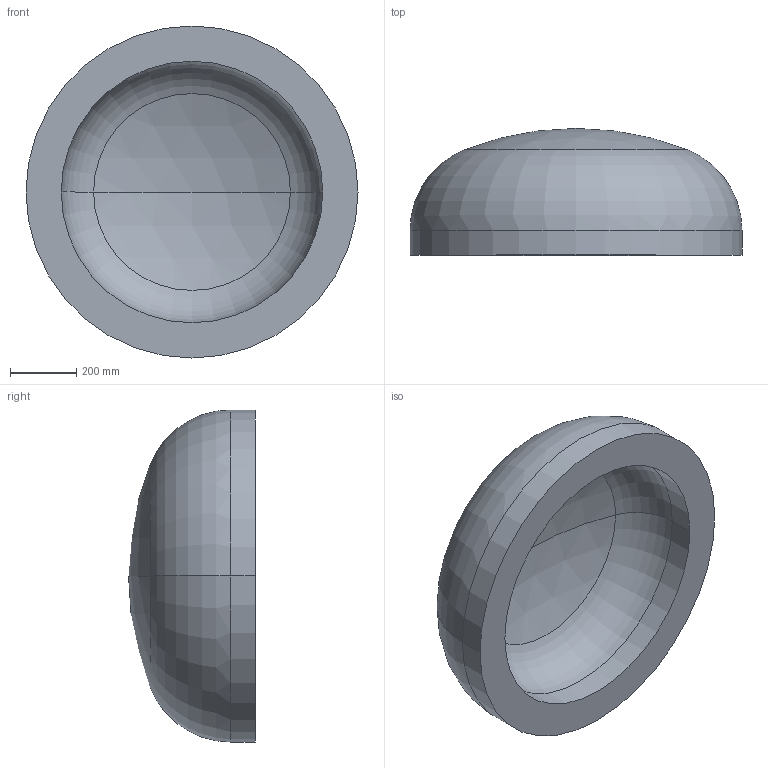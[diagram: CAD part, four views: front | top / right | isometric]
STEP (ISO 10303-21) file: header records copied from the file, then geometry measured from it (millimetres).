
FILE_DESCRIPTION (( 'STEP AP203' ), '1' );
FILE_NAME ('DIN 28013 Korbbogenform_-_Boden DIN 28013 - 1000 x 75 - I - s=106.step', '2016-07-01T08:57:11', ( '' ), ( '' ), 'SwSTEP 2.0', 'SolidWorks 2013', '' );
FILE_SCHEMA (( 'CONFIG_CONTROL_DESIGN' ));
Length unit declared in the file: millimetre
Products named in the file (1): DIN 28013 Korbbogenform_-_Boden DIN 28013 - 1000 x 75 - I - s=106
Bounding box: 1000 x 381.91 x 1000 mm (x, y, z)
Volume: 123650958 mm3; surface area: 2654279.1 mm2
Topology: 1 solids, 1 shells, 13 faces, 24 edges, 14 vertices
Faces by surface type: torus 4, cylinder 4, sphere 4, plane 1
Entity records: 407 total; most frequent: DIRECTION 72, CARTESIAN_POINT 52, ORIENTED_EDGE 48, AXIS2_PLACEMENT_3D 34, EDGE_CURVE 24, CIRCLE 20, VERTEX_POINT 14, EDGE_LOOP 14
